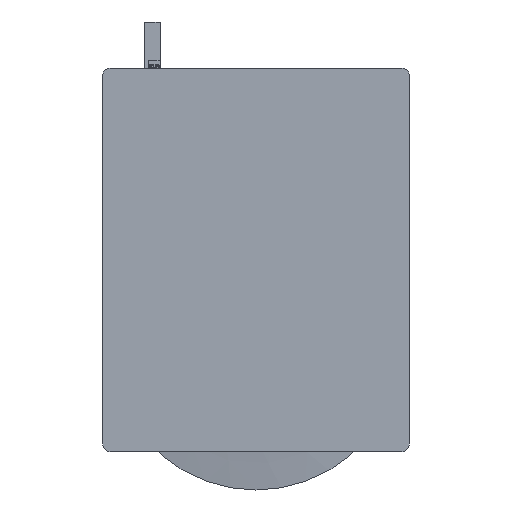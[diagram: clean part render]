
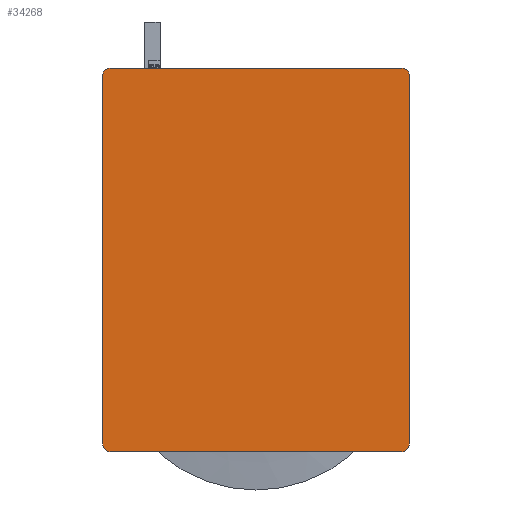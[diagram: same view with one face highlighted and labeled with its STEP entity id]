
A CAD part, front view. The second image highlights one B-rep face of the part: STEP entity #34268.
In plain terms, the highlighted planar face has unit normal (0, -1, 0).
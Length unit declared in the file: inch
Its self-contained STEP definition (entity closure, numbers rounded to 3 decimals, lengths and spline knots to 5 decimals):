
#25 = CARTESIAN_POINT ( 'NONE',  ( -19., 0., 24. ) ) ;
#301 = CARTESIAN_POINT ( 'NONE',  ( -20., 0., -25. ) ) ;
#970 = VECTOR ( 'NONE', #5055, 39.37008 ) ;
#2819 = ORIENTED_EDGE ( 'NONE', *, *, #15051, .F. ) ;
#3255 = DIRECTION ( 'NONE',  ( 0., -1., 0. ) ) ;
#3741 = ORIENTED_EDGE ( 'NONE', *, *, #55758, .T. ) ;
#4491 = AXIS2_PLACEMENT_3D ( 'NONE', #57748, #40594, #52562 ) ;
#5055 = DIRECTION ( 'NONE',  ( -1., 0., 0. ) ) ;
#6100 = CARTESIAN_POINT ( 'NONE',  ( -19., 0., -25. ) ) ;
#8474 = DIRECTION ( 'NONE',  ( 0., 1., 0. ) ) ;
#9022 = CIRCLE ( 'NONE', #18862, 1. ) ;
#11299 = ORIENTED_EDGE ( 'NONE', *, *, #30879, .T. ) ;
#11973 = CARTESIAN_POINT ( 'NONE',  ( 19., 0., 25. ) ) ;
#12066 = CARTESIAN_POINT ( 'NONE',  ( 20., 0., -25. ) ) ;
#12241 = EDGE_CURVE ( 'NONE', #16634, #43623, #63797, .T. ) ;
#13542 = ORIENTED_EDGE ( 'NONE', *, *, #28620, .F. ) ;
#14953 = DIRECTION ( 'NONE',  ( 0., 0., 1. ) ) ;
#15051 = EDGE_CURVE ( 'NONE', #28398, #68118, #18728, .T. ) ;
#15255 = VERTEX_POINT ( 'NONE', #59031 ) ;
#16440 = ORIENTED_EDGE ( 'NONE', *, *, #32271, .T. ) ;
#16497 = VECTOR ( 'NONE', #34271, 39.37008 ) ;
#16634 = VERTEX_POINT ( 'NONE', #18354 ) ;
#18354 = CARTESIAN_POINT ( 'NONE',  ( -19., 0., 25. ) ) ;
#18728 = LINE ( 'NONE', #301, #970 ) ;
#18862 = AXIS2_PLACEMENT_3D ( 'NONE', #43346, #3255, #14953 ) ;
#20503 = CARTESIAN_POINT ( 'NONE',  ( 20., 0., 24. ) ) ;
#20614 = CARTESIAN_POINT ( 'NONE',  ( 19., 0., -24. ) ) ;
#25115 = CARTESIAN_POINT ( 'NONE',  ( 0., 0., 0. ) ) ;
#25852 = CIRCLE ( 'NONE', #60563, 1. ) ;
#26623 = DIRECTION ( 'NONE',  ( 0., 0., 1. ) ) ;
#28398 = VERTEX_POINT ( 'NONE', #53267 ) ;
#28620 = EDGE_CURVE ( 'NONE', #30409, #15255, #28917, .T. ) ;
#28917 = LINE ( 'NONE', #12066, #40524 ) ;
#29332 = CIRCLE ( 'NONE', #58370, 1. ) ;
#30339 = CARTESIAN_POINT ( 'NONE',  ( -20., 0., -24. ) ) ;
#30409 = VERTEX_POINT ( 'NONE', #20503 ) ;
#30879 = EDGE_CURVE ( 'NONE', #30409, #43623, #9022, .T. ) ;
#31087 = PLANE ( 'NONE',  #49917 ) ;
#31277 = EDGE_CURVE ( 'NONE', #60150, #68118, #36560, .T. ) ;
#32271 = EDGE_CURVE ( 'NONE', #16634, #54813, #29332, .T. ) ;
#34268 = ADVANCED_FACE ( 'NONE', ( #43265 ), #31087, .F. ) ;
#34271 = DIRECTION ( 'NONE',  ( 1., 0., 0. ) ) ;
#36560 = CIRCLE ( 'NONE', #4491, 1. ) ;
#37839 = DIRECTION ( 'NONE',  ( 0., -1., 0. ) ) ;
#38052 = CARTESIAN_POINT ( 'NONE',  ( -20., 0., -25. ) ) ;
#38448 = CARTESIAN_POINT ( 'NONE',  ( -20., 0., 24. ) ) ;
#39142 = DIRECTION ( 'NONE',  ( 0., 0., 1. ) ) ;
#40524 = VECTOR ( 'NONE', #57641, 39.37008 ) ;
#40594 = DIRECTION ( 'NONE',  ( 0., -1., 0. ) ) ;
#43265 = FACE_OUTER_BOUND ( 'NONE', #71195, .T. ) ;
#43346 = CARTESIAN_POINT ( 'NONE',  ( 19., 0., 24. ) ) ;
#43623 = VERTEX_POINT ( 'NONE', #11973 ) ;
#45990 = CARTESIAN_POINT ( 'NONE',  ( -20., 0., 25. ) ) ;
#46241 = ORIENTED_EDGE ( 'NONE', *, *, #31277, .T. ) ;
#47695 = LINE ( 'NONE', #38052, #61029 ) ;
#49917 = AXIS2_PLACEMENT_3D ( 'NONE', #25115, #8474, #65004 ) ;
#51922 = ORIENTED_EDGE ( 'NONE', *, *, #12241, .F. ) ;
#52562 = DIRECTION ( 'NONE',  ( 0., 0., 1. ) ) ;
#53267 = CARTESIAN_POINT ( 'NONE',  ( 19., 0., -25. ) ) ;
#54736 = DIRECTION ( 'NONE',  ( 0., 0., 1. ) ) ;
#54813 = VERTEX_POINT ( 'NONE', #38448 ) ;
#55279 = ORIENTED_EDGE ( 'NONE', *, *, #59692, .F. ) ;
#55758 = EDGE_CURVE ( 'NONE', #28398, #15255, #25852, .T. ) ;
#57641 = DIRECTION ( 'NONE',  ( 0., 0., -1. ) ) ;
#57748 = CARTESIAN_POINT ( 'NONE',  ( -19., 0., -24. ) ) ;
#58370 = AXIS2_PLACEMENT_3D ( 'NONE', #25, #62523, #39142 ) ;
#59031 = CARTESIAN_POINT ( 'NONE',  ( 20., 0., -24. ) ) ;
#59692 = EDGE_CURVE ( 'NONE', #60150, #54813, #47695, .T. ) ;
#60150 = VERTEX_POINT ( 'NONE', #30339 ) ;
#60563 = AXIS2_PLACEMENT_3D ( 'NONE', #20614, #37839, #26623 ) ;
#61029 = VECTOR ( 'NONE', #54736, 39.37008 ) ;
#62523 = DIRECTION ( 'NONE',  ( 0., -1., 0. ) ) ;
#63797 = LINE ( 'NONE', #45990, #16497 ) ;
#65004 = DIRECTION ( 'NONE',  ( 0., 0., 1. ) ) ;
#68118 = VERTEX_POINT ( 'NONE', #6100 ) ;
#71195 = EDGE_LOOP ( 'NONE', ( #55279, #46241, #2819, #3741, #13542, #11299, #51922, #16440 ) ) ;
